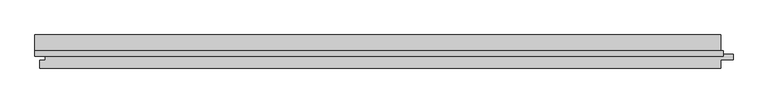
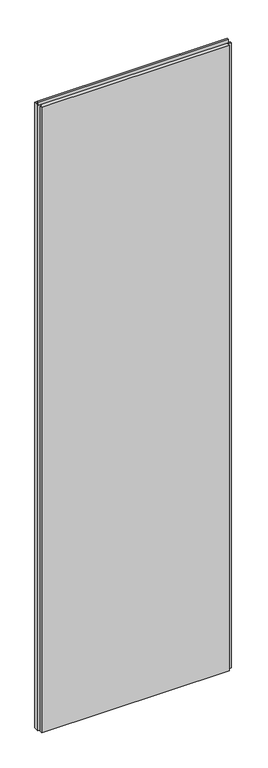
"""IFC4 building model written with IfcOpenShell, lengths in millimetres: plate geometry, Trimo_Qbiss Screen_Normal Panel-VERTICAL : HR - FB."""

from ifc_helpers import new_model, si_unit, frame, origin, place, context, project, spatial, polyline, outline, extrude, source, transform, mapped, element, save


def plate_cb035310(model_context):
    return source(origin(), model_context, "Body", "SweptSolid", [
        extrude(outline(polyline([(-513.0, 93.9), (-513.0, 102.6), (513.0, 102.6), (513.0, 93.9), (-513.0, 93.9)])), frame((0.0, 0.0, 3590.5), z_axis=(0.0, 0.0, 1.0), x_axis=(1.0, 0.0, 0.0)), (0.0, 0.0, 1.0), 19.0),
        extrude(outline(polyline([(509.0, 97.0), (527.5, 97.0), (527.5, 89.0), (509.0, 89.0), (509.0, 76.0), (-506.0, 76.0), (-506.0, 88.0), (-497.5, 88.0), (-497.5, 98.0), (-513.0, 98.0), (-513.0, 126.0), (509.0, 126.0), (509.0, 97.0)])), frame((0.0, 0.0, 12.5), z_axis=(0.0, 0.0, 1.0), x_axis=(1.0, 0.0, 0.0)), (0.0, 0.0, 1.0), 3575.0),
    ])


if __name__ == "__main__":
    model = new_model("IFC4")
    model_context = context("Model", 3, world=origin())
    ifc_project = project(units=[si_unit("LENGTHUNIT", "METRE", prefix="MILLI")], contexts=[model_context])
    site = spatial("IfcSite", under=ifc_project)
    building = spatial("IfcBuilding", under=site)
    placement = place(None, origin())
    plate_shape = plate_cb035310(model_context)
    element("IfcPlate", 1, ObjectType="Trimo_Qbiss Screen_Normal Panel-VERTICAL : HR - FB", at=placement, inside=building, context=model_context, shape_type="MappedRepresentation", body=[
        mapped(plate_shape, transform((0.0, 0.0, 0.0), x_axis=(1.0, 0.0, 0.0), y_axis=(0.0, 1.0, 0.0), z_axis=(0.0, 0.0, 1.0))),
    ])
    save(model, "model.ifc")
